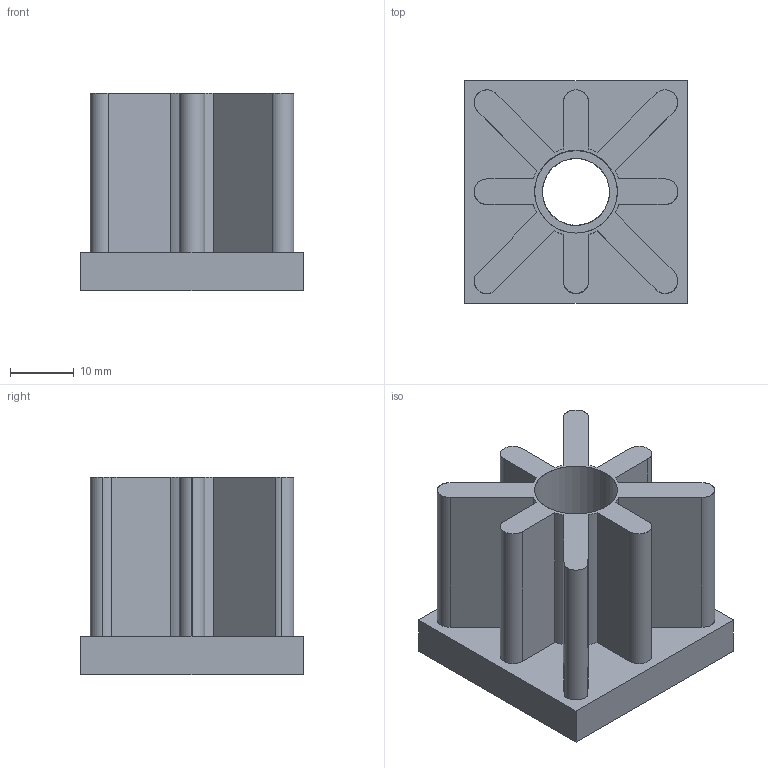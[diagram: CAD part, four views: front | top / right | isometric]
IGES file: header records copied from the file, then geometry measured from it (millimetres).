
Start section: SolidWorks IGES file using analytic representation for surfaces
Global section: file name: C:\Documents and Settings\URETIM3\Desktop\yeni katalog tolgay düzenli\A kataloðu\230 kare profil klavuzlari\230 kare profil klavuzlari montaj+part\230 351 215mntj.IGS; native system: SolidWorks 2006 by SolidWorks Corporation; preprocessor: SolidWorks 2006 by SolidWorks Corporation; author: URETIM3; date: 060912.091940; units: millimetre
Bounding box: 35 x 35 x 31 mm (x, y, z)
Surface area: 11090.4 mm2 (no closed solid volume)
Topology: 0 solids, 0 shells, 51 faces, 608 edges, 608 vertices
Faces by surface type: revolution 27, bspline 24
